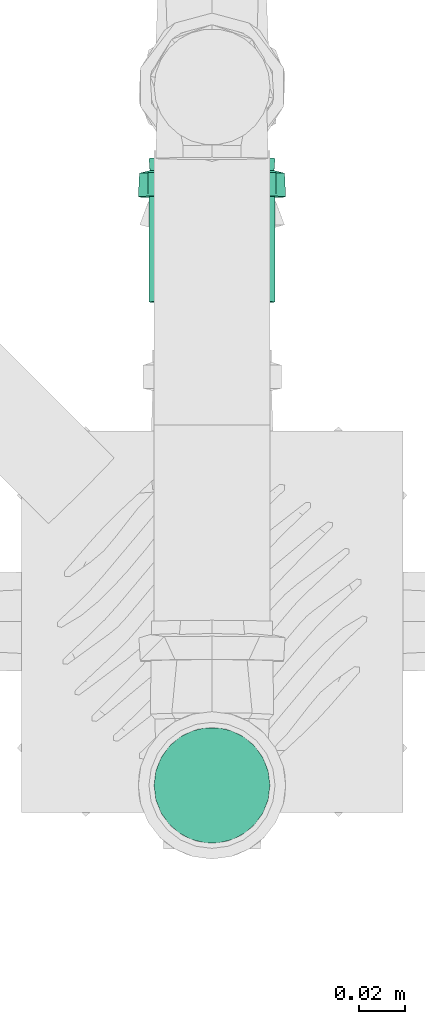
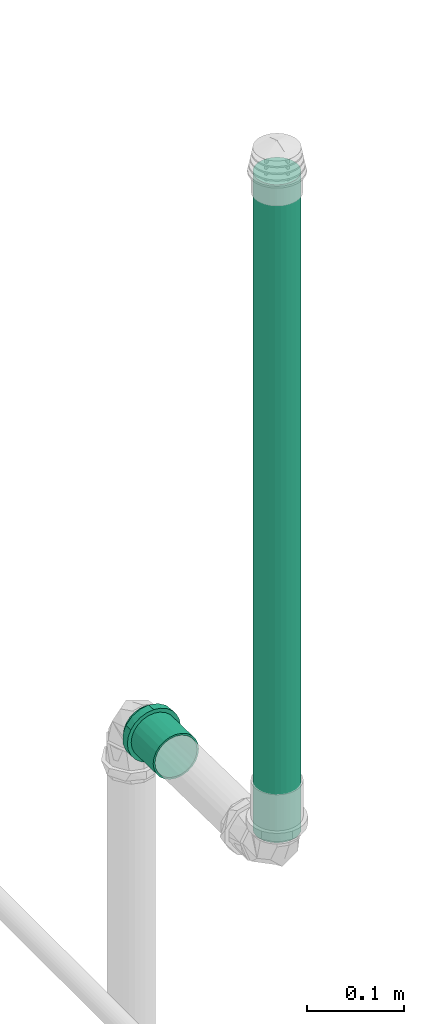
# One storey, part 219 of 589: 1 flow fitting, 1 flow segment.
"""IFC2X3 building model written with IfcOpenShell, lengths in millimetres."""

from ifc_helpers import new_model, entity, si_unit, converted_unit, derived_unit, direction, frame, origin, origin_2d_with_axis, place, context, subcontext, project, spatial, circle, extrude, faceted_brep, source, transform, mapped, material, type_object, type_shapes, element, save


model = new_model("IFC2X3")

# Units and contexts
model_context = context("Model", 3, precision=0.01, world=origin(), true_north=direction((6.123031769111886e-17, 1.0)))
body_context = subcontext(model_context, "Body", "Model", "MODEL_VIEW")
ifc_project = project(units=[si_unit("LENGTHUNIT", "METRE", prefix="MILLI"), si_unit("AREAUNIT", "SQUARE_METRE"), si_unit("VOLUMEUNIT", "CUBIC_METRE"), converted_unit("PLANEANGLEUNIT", "DEGREE", entity("IfcRatioMeasure", 0.017453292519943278), si_unit("PLANEANGLEUNIT", "RADIAN"), dimensions=[0, 0, 0, 0, 0, 0, 0]), si_unit("MASSUNIT", "GRAM", prefix="KILO"), derived_unit("MASSDENSITYUNIT", [(si_unit("MASSUNIT", "GRAM", prefix="KILO"), 1), (si_unit("LENGTHUNIT", "METRE"), -3)]), derived_unit("IONCONCENTRATIONUNIT", [(si_unit("MASSUNIT", "GRAM", prefix="KILO"), 1), (si_unit("LENGTHUNIT", "METRE"), -3)]), derived_unit("MOMENTOFINERTIAUNIT", [(si_unit("LENGTHUNIT", "METRE"), 4)]), si_unit("TIMEUNIT", "SECOND"), si_unit("FREQUENCYUNIT", "HERTZ"), si_unit("THERMODYNAMICTEMPERATUREUNIT", "DEGREE_CELSIUS"), derived_unit("THERMALTRANSMITTANCEUNIT", [(si_unit("MASSUNIT", "GRAM", prefix="KILO"), 1), (si_unit("THERMODYNAMICTEMPERATUREUNIT", "KELVIN"), -1), (si_unit("TIMEUNIT", "SECOND"), -3)]), derived_unit("THERMALCONDUCTANCEUNIT", [(si_unit("MASSUNIT", "GRAM", prefix="KILO"), 1), (si_unit("THERMODYNAMICTEMPERATUREUNIT", "KELVIN"), -1), (si_unit("TIMEUNIT", "SECOND"), -3), (si_unit("LENGTHUNIT", "METRE"), 1)]), derived_unit("VOLUMETRICFLOWRATEUNIT", [(si_unit("LENGTHUNIT", "METRE"), 3), (si_unit("TIMEUNIT", "SECOND"), -1)]), derived_unit("MASSFLOWRATEUNIT", [(si_unit("MASSUNIT", "GRAM", prefix="KILO"), 1), (si_unit("TIMEUNIT", "SECOND"), -1)]), derived_unit("ROTATIONALFREQUENCYUNIT", [(si_unit("TIMEUNIT", "SECOND"), -1)]), si_unit("ELECTRICCURRENTUNIT", "AMPERE"), si_unit("ELECTRICVOLTAGEUNIT", "VOLT"), si_unit("POWERUNIT", "WATT"), si_unit("FORCEUNIT", "NEWTON", prefix="KILO"), si_unit("ILLUMINANCEUNIT", "LUX"), si_unit("LUMINOUSFLUXUNIT", "LUMEN"), si_unit("LUMINOUSINTENSITYUNIT", "CANDELA"), derived_unit("USERDEFINED", [(si_unit("MASSUNIT", "GRAM", prefix="KILO"), -1), (si_unit("LENGTHUNIT", "METRE"), -2), (si_unit("TIMEUNIT", "SECOND"), 3), (si_unit("LUMINOUSFLUXUNIT", "LUMEN"), 1)]), derived_unit("USERDEFINED", [(si_unit("MASSUNIT", "GRAM", prefix="KILO"), 1), (si_unit("TIMEUNIT", "SECOND"), -3), (si_unit("LENGTHUNIT", "METRE"), 3), (si_unit("ELECTRICCURRENTUNIT", "AMPERE"), -2)]), derived_unit("SOUNDPOWERUNIT", [(si_unit("MASSUNIT", "GRAM", prefix="KILO"), 1), (si_unit("TIMEUNIT", "SECOND"), -3), (si_unit("LENGTHUNIT", "METRE"), 2)]), derived_unit("SOUNDPRESSUREUNIT", [(si_unit("MASSUNIT", "GRAM", prefix="KILO"), 1), (si_unit("LENGTHUNIT", "METRE"), -1), (si_unit("TIMEUNIT", "SECOND"), -2)]), derived_unit("LINEARVELOCITYUNIT", [(si_unit("LENGTHUNIT", "METRE"), 1), (si_unit("TIMEUNIT", "SECOND"), -1)]), si_unit("PRESSUREUNIT", "PASCAL"), derived_unit("USERDEFINED", [(si_unit("MASSUNIT", "GRAM", prefix="KILO"), 1), (si_unit("LENGTHUNIT", "METRE"), -2), (si_unit("TIMEUNIT", "SECOND"), -2)]), derived_unit("LINEARFORCEUNIT", [(si_unit("MASSUNIT", "GRAM", prefix="KILO"), 1), (si_unit("TIMEUNIT", "SECOND"), -2)]), derived_unit("PLANARFORCEUNIT", [(si_unit("MASSUNIT", "GRAM", prefix="KILO"), 1), (si_unit("LENGTHUNIT", "METRE"), -1), (si_unit("TIMEUNIT", "SECOND"), -2)]), derived_unit("SPECIFICHEATCAPACITYUNIT", [(si_unit("THERMODYNAMICTEMPERATUREUNIT", "KELVIN"), -1), (si_unit("LENGTHUNIT", "METRE"), 2), (si_unit("TIMEUNIT", "SECOND"), -2)]), derived_unit("HEATINGVALUEUNIT", [(si_unit("LENGTHUNIT", "METRE"), 2), (si_unit("TIMEUNIT", "SECOND"), -2)]), derived_unit("VAPORPERMEABILITYUNIT", [(si_unit("LENGTHUNIT", "METRE"), -1), (si_unit("TIMEUNIT", "SECOND"), 1)]), derived_unit("DYNAMICVISCOSITYUNIT", [(si_unit("MASSUNIT", "GRAM", prefix="KILO"), 1), (si_unit("TIMEUNIT", "SECOND"), -1), (si_unit("LENGTHUNIT", "METRE"), -1)]), derived_unit("THERMALEXPANSIONCOEFFICIENTUNIT", [(si_unit("THERMODYNAMICTEMPERATUREUNIT", "KELVIN"), -1)]), derived_unit("MODULUSOFELASTICITYUNIT", [(si_unit("MASSUNIT", "GRAM", prefix="KILO"), 1), (si_unit("LENGTHUNIT", "METRE"), -1), (si_unit("TIMEUNIT", "SECOND"), -2)]), derived_unit("ISOTHERMALMOISTURECAPACITYUNIT", [(si_unit("LENGTHUNIT", "METRE"), 3), (si_unit("MASSUNIT", "GRAM", prefix="KILO"), -1)]), derived_unit("MOISTUREDIFFUSIVITYUNIT", [(si_unit("TIMEUNIT", "SECOND"), -1), (si_unit("LENGTHUNIT", "METRE"), 2)])], contexts=[model_context])

# Site, building, storey
site_placement = place(None, origin())
site = spatial("IfcSite", under=ifc_project, at=site_placement, Name="Default", CompositionType="ELEMENT")
building_placement = place(site_placement, origin())
building = spatial("IfcBuilding", under=site, at=building_placement, CompositionType="ELEMENT")
storey_placement = place(building_placement, frame((0.0, 0.0, 100.0)))
storey = spatial("IfcBuildingStorey", under=building, at=storey_placement, Name="TÉRREO", CompositionType="ELEMENT", Elevation=100.0)

# Flow segment
pipe_segment_type = type_object("IfcPipeSegmentType", Name="Tipos de tubos:PVC Esgoto Série Normal", PredefinedType="NOTDEFINED")
flow_segment_placement = place(storey_placement, origin())
element("IfcFlowSegment", 1, at=flow_segment_placement, inside=storey, type_object=pipe_segment_type, Name="Tipos de tubos:PVC Esgoto Série Normal", ObjectType="Tipos de tubos:PVC Esgoto Série Normal", context=body_context, shape_type="SweptSolid", body=[
    extrude(circle(Radius=25.0, at=origin_2d_with_axis()), frame((11656.425175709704, -825.0585326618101, 3056.8407542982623), z_axis=(0.0, 0.0, 1.0), x_axis=(-1.0, 0.0, 0.0)), (0.0, 0.0, 1.0), 828.792648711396),
])

# Flow fitting
ifc_material = material(Name="PVC Série Normal")
pipe_fitting_type = type_object("IfcPipeFittingType", Name="PVC Esgoto_Luva Simples para Conexão_Rodrigo MEP:Standard", PredefinedType="NOTDEFINED", material=ifc_material)
shared_shape = source(origin(), body_context, "Body", "Brep", [
    faceted_brep([(16.599999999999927, 15.900000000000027, -27.53960784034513), (16.599999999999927, 22.485995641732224, -22.485995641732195), (16.599999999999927, 13.599999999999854, -23.555890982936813), (16.599999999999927, 7.039878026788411, -26.273182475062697), (16.599999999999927, 8.2304456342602, -30.71644127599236), (16.599999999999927, 19.233304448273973, -19.233304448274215), (16.599999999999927, 27.539607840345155, -15.899999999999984), (16.599999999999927, 23.55589098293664, -13.600000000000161), (16.599999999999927, 26.273182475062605, -7.03987802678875), (16.599999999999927, 30.716441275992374, -8.230445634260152), (16.599999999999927, 27.2, 0.0), (16.599999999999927, 31.8, 0.0), (16.599999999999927, 26.273182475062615, 7.0398780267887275), (16.599999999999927, 30.71644127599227, 8.23044563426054), (16.599999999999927, 23.555890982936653, 13.60000000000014), (16.599999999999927, 27.539607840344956, 15.900000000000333), (16.599999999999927, 19.233304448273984, 19.2333044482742), (16.599999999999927, 22.485995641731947, 22.48599564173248), (16.599999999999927, 13.599999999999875, 23.555890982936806), (16.599999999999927, 15.899999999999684, 27.53960784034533), (16.599999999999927, 7.039878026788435, 26.27318247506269), (16.599999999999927, 8.230445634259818, 30.716441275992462), (16.599999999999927, 0.0, 27.2), (16.599999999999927, 0.0, 31.8), (16.599999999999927, -7.039878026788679, 26.273182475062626), (16.599999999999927, -8.230445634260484, 30.716441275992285), (16.599999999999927, -13.600000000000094, 23.555890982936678), (16.599999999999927, -15.900000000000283, 27.53960784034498), (16.599999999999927, -19.23330444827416, 19.233304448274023), (16.599999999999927, -22.485995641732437, 22.48599564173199), (16.599999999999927, -23.55589098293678, 13.59999999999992), (16.599999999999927, -27.539607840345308, 15.899999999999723), (16.599999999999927, -30.71644127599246, 8.230445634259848), (16.599999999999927, -26.273182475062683, 7.039878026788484), (16.599999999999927, -31.8, 0.0), (16.599999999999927, -27.2, 0.0), (16.599999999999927, -30.71644127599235, -8.23044563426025), (16.599999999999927, -26.273182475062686, -7.03987802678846), (16.599999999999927, -27.53960784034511, -15.90000000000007), (16.599999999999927, -23.55589098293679, -13.599999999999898), (16.599999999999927, -22.485995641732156, -22.485995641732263), (16.599999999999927, -19.233304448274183, -19.233304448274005), (16.599999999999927, -15.899999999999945, -27.53960784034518), (16.599999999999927, -13.600000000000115, -23.555890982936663), (16.599999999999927, -8.230445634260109, -30.716441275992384), (16.599999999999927, -7.039878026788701, -26.273182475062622), (16.599999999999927, 0.0, -31.8), (16.599999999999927, 0.0, -27.2), (6.500000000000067, -10.708108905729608, 29.429219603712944), (6.500000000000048, -24.359073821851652, 20.44200387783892), (6.500000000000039, -27.120498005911, 15.6595386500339), (6.50000000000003, -29.881922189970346, 10.877073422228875), (6.500000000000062, -15.89769721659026, 27.540937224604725), (6.500000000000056, -20.128385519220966, 23.991470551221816), (6.50000000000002, -30.840961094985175, 5.438536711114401), (6.5000000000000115, -31.8, 0.0), (6.50000000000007, -5.518520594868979, 31.317501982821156), (6.500000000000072, 5.526376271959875, 31.316116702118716), (6.50000000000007, 0.00392783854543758, 31.316809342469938), (6.500000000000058, 20.134403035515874, 23.986420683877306), (6.500000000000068, 10.715490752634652, 29.42653259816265), (6.500000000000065, 15.904605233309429, 27.536948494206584), (6.500000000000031, 29.8846497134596, 10.869577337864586), (6.500000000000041, 27.12442527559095, 15.652735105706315), (6.5000000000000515, 24.364200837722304, 20.435892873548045), (6.5000000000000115, 31.8, 0.0), (6.499999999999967, 24.364200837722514, -20.435892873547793), (6.499999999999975, 27.12442527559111, -15.652735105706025), (6.499999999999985, 29.884649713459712, -10.869577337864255), (6.4999999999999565, 15.904605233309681, -27.53694849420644), (6.499999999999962, 20.134403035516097, -23.986420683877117), (6.499999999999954, 10.715490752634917, -29.42653259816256), (6.499999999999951, 5.526376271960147, -31.31611670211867), (6.499999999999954, -5.518520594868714, -31.317501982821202), (6.499999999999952, 0.003927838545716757, -31.316809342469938), (6.499999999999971, -20.128385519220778, -23.99147055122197), (6.499999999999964, -15.897697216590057, -27.54093722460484), (6.499999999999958, -10.70810890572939, -29.42921960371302), (6.499999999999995, -29.881922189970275, -10.877073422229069), (6.499999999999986, -27.12049800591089, -15.659538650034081), (6.499999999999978, -24.359073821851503, -20.442003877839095), (6.500000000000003, -30.840961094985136, -5.438536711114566), (6.499999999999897, -30.696173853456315, -6.259599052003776), (62.0, 13.600000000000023, -23.55589098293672), (62.0, 19.233304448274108, -19.23330444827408), (62.0, 12.499999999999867, -21.650635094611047), (62.0, 6.470476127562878, -24.14814565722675), (62.0, 7.039878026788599, -26.273182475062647), (62.0, 17.677669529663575, -17.677669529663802), (62.0, 23.55589098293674, -13.599999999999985), (62.0, 21.65063509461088, -12.50000000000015), (62.0, 24.148145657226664, -6.470476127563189), (62.0, 26.27318247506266, -7.039878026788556), (62.0, 25.0, 0.0), (62.0, 27.2, 0.0), (62.0, 24.148145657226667, 6.4704761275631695), (62.0, 26.273182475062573, 7.03987802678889), (62.0, 21.650635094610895, 12.500000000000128), (62.0, 23.555890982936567, 13.600000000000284), (62.0, 17.67766952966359, 17.67766952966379), (62.0, 19.233304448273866, 19.233304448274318), (62.0, 12.499999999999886, 21.650635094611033), (62.0, 13.59999999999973, 23.55589098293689), (62.0, 6.4704761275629, 24.14814565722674), (62.0, 7.039878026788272, 26.273182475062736), (62.0, 0.0, 25.0), (62.0, 0.0, 27.2), (62.0, -6.470476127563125, 24.148145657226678), (62.0, -7.039878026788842, 26.273182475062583), (62.0, -12.500000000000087, 21.650635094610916), (62.0, -13.600000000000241, 23.555890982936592), (62.0, -17.677669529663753, 17.677669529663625), (62.0, -19.233304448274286, 19.2333044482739), (62.0, -21.65063509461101, 12.499999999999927), (62.0, -23.555890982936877, 13.599999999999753), (62.0, -26.27318247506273, 7.039878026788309), (62.0, -24.14814565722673, 6.470476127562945), (62.0, -27.2, 0.0), (62.0, -25.0, 0.0), (62.0, -26.27318247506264, -7.0398780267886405), (62.0, -24.148145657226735, -6.470476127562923), (62.0, -23.5558909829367, -13.600000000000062), (62.0, -21.650635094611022, -12.499999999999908), (62.0, -19.233304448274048, -19.233304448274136), (62.0, -17.67766952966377, -17.677669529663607), (62.0, -13.599999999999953, -23.555890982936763), (62.0, -12.500000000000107, -21.650635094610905), (62.0, -7.039878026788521, -26.27318247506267), (62.0, -6.470476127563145, -24.148145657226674), (62.0, 0.0, -27.2), (62.0, 0.0, -25.0), (0.0, 12.499999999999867, -21.650635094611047), (0.0, 19.233304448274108, -19.23330444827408), (0.0, 13.600000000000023, -23.55589098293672), (0.0, 6.470476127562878, -24.14814565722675), (0.0, 17.677669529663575, -17.677669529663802), (0.0, 23.55589098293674, -13.599999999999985), (0.0, 21.65063509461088, -12.50000000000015), (0.0, 24.148145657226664, -6.470476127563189), (0.0, 26.27318247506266, -7.039878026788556), (0.0, 25.0, 0.0), (0.0, 27.2, 0.0), (0.0, 24.148145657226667, 6.4704761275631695), (0.0, 26.273182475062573, 7.03987802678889), (0.0, 21.650635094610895, 12.500000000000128), (0.0, 23.555890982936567, 13.600000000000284), (0.0, 17.67766952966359, 17.67766952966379), (0.0, 19.233304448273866, 19.233304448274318), (0.0, 12.499999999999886, 21.650635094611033), (0.0, 13.59999999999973, 23.55589098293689), (0.0, 6.4704761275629, 24.14814565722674), (0.0, 7.039878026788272, 26.273182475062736), (0.0, 0.0, 25.0), (0.0, 0.0, 27.2), (0.0, -6.470476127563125, 24.148145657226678), (0.0, -7.039878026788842, 26.273182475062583), (0.0, -12.500000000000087, 21.650635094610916), (0.0, -13.600000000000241, 23.555890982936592), (0.0, -17.677669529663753, 17.677669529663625), (0.0, -19.233304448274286, 19.2333044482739), (0.0, -21.65063509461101, 12.499999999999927), (0.0, -23.555890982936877, 13.599999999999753), (0.0, -26.27318247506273, 7.039878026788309), (0.0, -24.14814565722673, 6.470476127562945), (0.0, -27.2, 0.0), (0.0, -25.0, 0.0), (0.0, -26.27318247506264, -7.0398780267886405), (0.0, -24.148145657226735, -6.470476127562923), (0.0, -23.5558909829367, -13.600000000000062), (0.0, -21.650635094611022, -12.499999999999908), (0.0, -19.233304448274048, -19.233304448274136), (0.0, -17.67766952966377, -17.677669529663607), (0.0, -13.599999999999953, -23.555890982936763), (0.0, -12.500000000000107, -21.650635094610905), (0.0, -7.039878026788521, -26.27318247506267), (0.0, -6.470476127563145, -24.148145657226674), (0.0, 0.0, -27.2), (0.0, 0.0, -25.0), (0.0, 7.039878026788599, -26.273182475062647), (5.300000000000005, -26.37968999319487, 4.651830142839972), (5.299999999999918, -26.25584678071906, 5.354122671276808), (5.300000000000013, -25.559379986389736, 9.303660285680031), (5.300000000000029, -20.835434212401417, 17.48498444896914), (5.300000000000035, -17.216732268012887, 20.521006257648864), (5.300000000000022, -23.19740709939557, 13.394322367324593), (5.3000000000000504, -4.720244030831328, 26.787297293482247), (5.300000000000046, -9.15913717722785, 25.172162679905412), (5.299999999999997, -27.2, 0.0), (5.300000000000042, -13.598030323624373, 23.557028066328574), (5.300000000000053, 9.165451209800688, 25.169864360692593), (5.300000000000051, 13.603939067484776, 23.55361632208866), (5.300000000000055, 4.7269633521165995, 26.786112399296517), (5.300000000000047, 17.221879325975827, 20.516686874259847), (5.300000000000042, 20.839819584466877, 17.479757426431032), (5.3000000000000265, 25.56171296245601, 9.297248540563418), (5.299999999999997, 27.2, 0.0), (5.3000000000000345, 23.20076627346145, 13.388502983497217), (5.300000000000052, 0.003359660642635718, 26.786704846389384), (5.299999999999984, 25.56171296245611, -9.29724854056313), (5.299999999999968, 20.839819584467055, -17.47975742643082), (5.2999999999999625, 17.22187932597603, -20.516686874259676), (5.299999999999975, 23.200766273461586, -13.388502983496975), (5.299999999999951, 4.726963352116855, -26.78611239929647), (5.2999999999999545, 9.165451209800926, -25.169864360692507), (5.299999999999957, 13.603939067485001, -23.553616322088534), (5.29999999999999, -26.379689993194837, -4.651830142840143), (5.299999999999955, -9.159137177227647, -25.17216267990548), (5.299999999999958, -13.5980303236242, -23.55702806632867), (5.299999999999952, -4.720244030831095, -26.787297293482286), (5.299999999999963, -17.216732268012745, -20.52100625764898), (5.299999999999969, -20.83543421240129, -17.484984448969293), (5.299999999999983, -25.559379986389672, -9.303660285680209), (5.299999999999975, -23.197407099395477, -13.394322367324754), (5.299999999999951, 0.003359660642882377, -26.78670484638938), (39.0, -25.0, 0.0), (39.0, 25.0, 0.0)], [[[0, 1, 2]], [[0, 2, 3]], [[3, 4, 0]], [[2, 1, 5]], [[6, 5, 1]], [[7, 5, 6]], [[8, 7, 6]], [[8, 6, 9]], [[8, 9, 10]], [[10, 9, 11]], [[12, 10, 11]], [[12, 11, 13]], [[14, 12, 13]], [[14, 13, 15]], [[16, 14, 15]], [[15, 17, 16]], [[17, 18, 16]], [[17, 19, 18]], [[18, 19, 20]], [[21, 20, 19]], [[20, 21, 22]], [[22, 21, 23]], [[22, 23, 24]], [[24, 23, 25]], [[24, 25, 26]], [[27, 26, 25]], [[27, 28, 26]], [[28, 27, 29]], [[30, 28, 29]], [[31, 30, 29]], [[32, 30, 31]], [[33, 30, 32]], [[33, 32, 34]], [[35, 33, 34]], [[36, 35, 34]], [[36, 37, 35]], [[37, 36, 38]], [[39, 37, 38]], [[39, 38, 40]], [[39, 40, 41]], [[40, 42, 41]], [[41, 42, 43]], [[43, 42, 44]], [[44, 45, 43]], [[46, 45, 44]], [[4, 47, 46]], [[46, 47, 45]], [[4, 3, 47]], [[48, 27, 25]], [[31, 29, 49]], [[31, 49, 50, 51]], [[52, 53, 27]], [[32, 51, 54]], [[54, 55, 34]], [[54, 34, 32]], [[25, 56, 48]], [[49, 29, 53]], [[23, 57, 58, 56]], [[59, 19, 17]], [[27, 53, 29]], [[48, 52, 27]], [[31, 51, 32]], [[57, 23, 21]], [[60, 19, 61]], [[15, 62, 63, 64]], [[19, 60, 21]], [[15, 13, 62]], [[17, 64, 59]], [[57, 21, 60]], [[23, 56, 25]], [[15, 64, 17]], [[13, 65, 62]], [[13, 11, 65]], [[59, 61, 19]], [[65, 11, 9]], [[6, 1, 66]], [[6, 66, 67, 68]], [[69, 70, 0]], [[68, 65, 9]], [[71, 69, 0]], [[71, 0, 4]], [[4, 72, 71]], [[66, 1, 70]], [[46, 73, 74, 72]], [[75, 76, 42]], [[0, 70, 1]], [[75, 42, 40]], [[6, 68, 9]], [[73, 46, 44]], [[77, 42, 76]], [[38, 78, 79, 80]], [[42, 77, 44]], [[38, 36, 78]], [[40, 80, 75]], [[73, 44, 77]], [[46, 72, 4]], [[38, 80, 40]], [[36, 81, 82, 78]], [[55, 81, 34]], [[34, 81, 36]], [[83, 84, 85]], [[83, 85, 86]], [[86, 87, 83]], [[85, 84, 88]], [[89, 88, 84]], [[88, 89, 90]], [[90, 89, 91]], [[92, 91, 89]], [[92, 93, 91]], [[93, 92, 94]], [[95, 93, 94]], [[94, 96, 95]], [[95, 96, 97]], [[98, 97, 96]], [[97, 98, 99]], [[99, 98, 100]], [[101, 99, 100]], [[100, 102, 101]], [[101, 102, 103]], [[104, 103, 102]], [[103, 104, 105]], [[105, 104, 106]], [[105, 106, 107]], [[107, 106, 108]], [[107, 108, 109]], [[110, 109, 108]], [[110, 111, 109]], [[111, 110, 112]], [[112, 113, 111]], [[114, 113, 112]], [[113, 114, 115]], [[115, 116, 113]], [[117, 116, 115]], [[117, 118, 116]], [[119, 118, 117]], [[119, 120, 118]], [[120, 119, 121]], [[121, 122, 120]], [[122, 121, 123]], [[122, 123, 124]], [[123, 125, 124]], [[124, 125, 126]], [[126, 125, 127]], [[127, 128, 126]], [[129, 128, 127]], [[87, 130, 129]], [[129, 130, 128]], [[87, 86, 130]], [[131, 132, 133]], [[134, 131, 133]], [[135, 132, 131]], [[132, 135, 136]], [[137, 136, 135]], [[138, 136, 137]], [[136, 138, 139]], [[138, 140, 139]], [[141, 139, 140]], [[141, 140, 142]], [[142, 143, 141]], [[144, 143, 142]], [[143, 144, 145]], [[146, 145, 144]], [[147, 145, 146]], [[147, 146, 148]], [[148, 149, 147]], [[150, 149, 148]], [[149, 150, 151]], [[152, 151, 150]], [[153, 151, 152]], [[154, 153, 152]], [[155, 153, 154]], [[156, 155, 154]], [[155, 156, 157]], [[156, 158, 157]], [[159, 157, 158]], [[158, 160, 159]], [[159, 160, 161]], [[162, 161, 160]], [[160, 163, 162]], [[162, 163, 164]], [[163, 165, 164]], [[164, 165, 166]], [[165, 167, 166]], [[168, 166, 167]], [[167, 169, 168]], [[170, 168, 169]], [[171, 170, 169]], [[171, 172, 170]], [[173, 172, 171]], [[174, 172, 173]], [[173, 175, 174]], [[174, 175, 176]], [[175, 177, 176]], [[177, 134, 178]], [[176, 177, 178]], [[133, 178, 134]], [[162, 179, 180, 181]], [[159, 182, 183]], [[182, 161, 181, 184]], [[185, 155, 186]], [[161, 162, 181]], [[187, 179, 164]], [[183, 188, 157]], [[183, 157, 159]], [[161, 182, 159]], [[189, 190, 149]], [[189, 149, 151]], [[157, 188, 186]], [[157, 186, 155]], [[153, 155, 185]], [[164, 179, 162]], [[151, 191, 189]], [[147, 192, 193]], [[143, 194, 195]], [[194, 145, 193, 196]], [[143, 195, 141]], [[10, 12, 96, 94]], [[149, 192, 147]], [[153, 185, 197, 191]], [[153, 191, 151]], [[145, 147, 193]], [[190, 192, 149]], [[145, 194, 143]], [[139, 195, 198]], [[132, 199, 200]], [[199, 136, 198, 201]], [[202, 178, 203]], [[136, 139, 198]], [[139, 141, 195]], [[92, 8, 10, 94]], [[133, 203, 178]], [[200, 204, 133]], [[136, 199, 132]], [[205, 164, 166]], [[206, 207, 172]], [[133, 204, 203]], [[206, 172, 174]], [[176, 178, 202]], [[200, 133, 132]], [[174, 208, 206]], [[170, 209, 210]], [[166, 211, 205]], [[211, 168, 210, 212]], [[168, 211, 166]], [[172, 209, 170]], [[176, 202, 213, 208]], [[176, 208, 174]], [[168, 170, 210]], [[207, 209, 172]], [[205, 187, 164]], [[116, 118, 214, 165, 163]], [[156, 109, 111, 158]], [[111, 113, 160, 158]], [[113, 116, 163, 160]], [[107, 109, 156, 154]], [[154, 152, 105, 107]], [[103, 105, 152, 150]], [[103, 150, 148, 101]], [[142, 95, 97, 144]], [[97, 99, 146, 144]], [[99, 101, 148, 146]], [[93, 95, 142, 140, 215]], [[215, 140, 138, 91, 93]], [[135, 131, 85, 88]], [[90, 91, 138, 137]], [[90, 137, 135, 88]], [[86, 85, 131, 134]], [[134, 177, 130, 86]], [[128, 130, 177, 175]], [[128, 175, 173, 126]], [[167, 120, 122, 169]], [[122, 124, 171, 169]], [[124, 126, 173, 171]], [[118, 120, 167, 165, 214]], [[211, 78, 82, 81, 55, 187, 205]], [[79, 78, 211, 212, 210, 80]], [[75, 80, 210, 209, 207, 76]], [[207, 206, 208, 73, 77, 76]], [[213, 202, 72, 74, 73, 208]], [[203, 204, 69, 71, 72, 202]], [[198, 195, 65, 68]], [[199, 201, 198, 68, 67, 66]], [[204, 200, 199, 66, 70, 69]], [[195, 194, 62, 65]], [[197, 185, 56, 58, 57, 191]], [[63, 62, 194, 196, 193, 64]], [[57, 60, 61, 190, 189, 191]], [[193, 192, 190, 61, 59, 64]], [[48, 56, 185, 186, 188, 52]], [[187, 55, 54, 51, 181, 180, 179]], [[182, 184, 181, 51, 50, 49]], [[188, 183, 182, 49, 53, 52]], [[30, 33, 115, 114]], [[117, 115, 33, 35]], [[26, 28, 112, 110]], [[114, 112, 28, 30]], [[24, 26, 110, 108]], [[108, 106, 22, 24]], [[18, 20, 104, 102]], [[100, 16, 18, 102]], [[12, 14, 98, 96]], [[100, 98, 14, 16]], [[104, 20, 22, 106]], [[89, 7, 8, 92]], [[83, 87, 3, 2]], [[7, 89, 84, 5]], [[83, 2, 5, 84]], [[87, 129, 47, 3]], [[43, 45, 127, 125]], [[123, 41, 43, 125]], [[37, 39, 121, 119]], [[123, 121, 39, 41]], [[35, 37, 119, 117]], [[127, 45, 47, 129]]]),
])
type_shapes(pipe_fitting_type, [shared_shape])
flow_fitting_placement = place(storey_placement, frame((11656.425175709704, -554.6300065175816, 3020.746984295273), z_axis=(1.0, 0.0, 0.0), x_axis=(0.0, -0.999800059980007, 0.019996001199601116)))
element("IfcFlowFitting", 2, at=flow_fitting_placement, inside=storey, type_object=pipe_fitting_type, material=ifc_material, Name="PVC Esgoto_Luva Simples para Conexão_Rodrigo MEP:Standard", ObjectType="PVC Esgoto_Luva Simples para Conexão_Rodrigo MEP:Standard", context=body_context, shape_type="MappedRepresentation", body=[
    mapped(shared_shape, transform((0.0, 0.0, 0.0), scale=1.0)),
])

save(model, "model.ifc")
